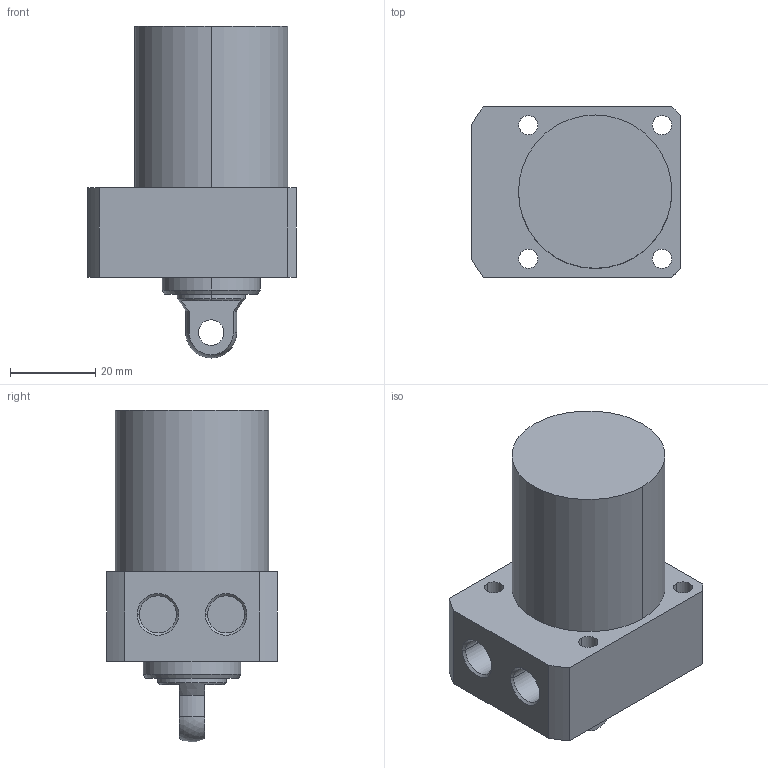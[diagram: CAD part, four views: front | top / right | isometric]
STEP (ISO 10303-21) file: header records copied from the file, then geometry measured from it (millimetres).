
FILE_DESCRIPTION((' '),'2;1');
FILE_NAME( 'TLLR-036CP-030.STEP.stp', '2025-10-24T16:35:48', (' '), ('--- Datakit www.datakit.com---'), ' Datakit CrossCadWare V2024.1 Dec 21 2023', 'Mastercam 2025', ' ');
FILE_SCHEMA(('AUTOMOTIVE_DESIGN { 1 0 10303 214 1 1 1 1 }'));
Length unit declared in the file: millimetre
Products named in the file (1): TLLR-036CP-030
Bounding box: 49 x 40 x 77.97 mm (x, y, z)
Volume: 79224.5 mm3; surface area: 14321.5 mm2
Topology: 1 solids, 1 shells, 55 faces, 157 edges, 111 vertices
Faces by surface type: cylinder 28, plane 18, cone 8, sphere 1
Entity records: 1924 total; most frequent: DIRECTION 360, CARTESIAN_POINT 336, ORIENTED_EDGE 314, EDGE_CURVE 157, AXIS2_PLACEMENT_3D 151, VERTEX_POINT 111, CIRCLE 95, EDGE_LOOP 72
